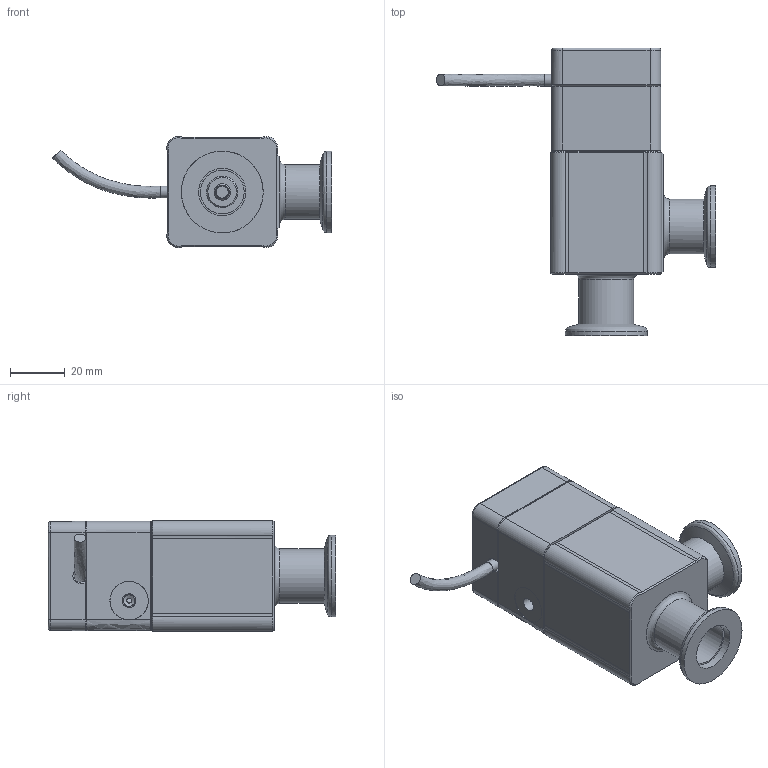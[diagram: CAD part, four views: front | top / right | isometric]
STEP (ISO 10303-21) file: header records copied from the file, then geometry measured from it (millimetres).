
FILE_DESCRIPTION((''),'2;1');
FILE_NAME('O:\MT\MT\Systeme\Cad\Datenexporte\www_vat_ch\240247.stp','2004-06-24T13:14:31',('User'),('SDRC'),'I-DEAS Master Series 9','UNIX','Yes');
FILE_SCHEMA(('CONFIG_CONTROL_DESIGN'));
Length unit declared in the file: millimetre
Assembly tree (11 placements, depth 0):
Bounding box: 102.13 x 105.2 x 40.6 mm (x, y, z)
Volume: 61640.5 mm3; surface area: 45051.9 mm2
Topology: 10 solids, 12 shells, 529 faces, 1268 edges, 808 vertices
Faces by surface type: bspline 529
Entity records: 17132 total; most frequent: CARTESIAN_POINT 9229, ORIENTED_EDGE 2275, EDGE_CURVE 1139, VERTEX_POINT 726, EDGE_LOOP 547, FACE_OUTER_BOUND 472, ADVANCED_FACE 472, QUASI_UNIFORM_CURVE 408
